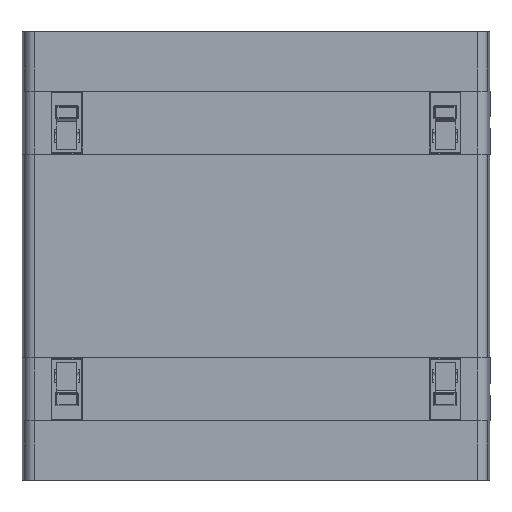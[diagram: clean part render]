
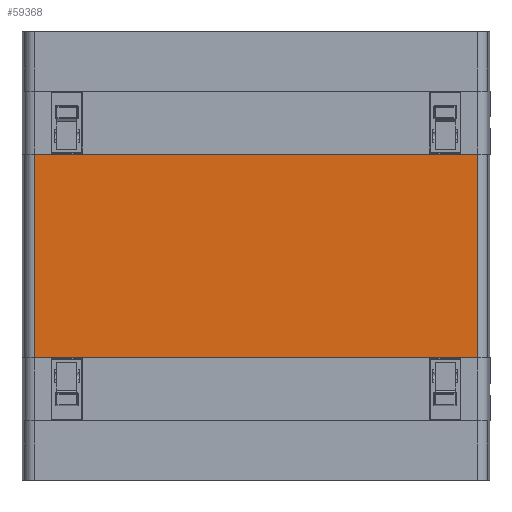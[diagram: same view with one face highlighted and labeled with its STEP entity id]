
A CAD part, front view. The second image highlights one B-rep face of the part: STEP entity #59368.
In plain terms, the highlighted planar face has unit normal (0, -1, 0).
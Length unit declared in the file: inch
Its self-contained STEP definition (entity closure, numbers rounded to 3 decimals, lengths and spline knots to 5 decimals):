
#431 = CARTESIAN_POINT ( 'NONE',  ( 4.85624, 0., -2.236 ) ) ;
#694 = VECTOR ( 'NONE', #73382, 39.37008 ) ;
#2485 = CARTESIAN_POINT ( 'NONE',  ( 4.85624, 0., 4.925 ) ) ;
#3588 = CARTESIAN_POINT ( 'NONE',  ( 4.85624, 0., 2.236 ) ) ;
#6796 = VERTEX_POINT ( 'NONE', #431 ) ;
#8813 = VECTOR ( 'NONE', #67215, 39.37008 ) ;
#9327 = DIRECTION ( 'NONE',  ( 0., 1., 0. ) ) ;
#10919 = CARTESIAN_POINT ( 'NONE',  ( -5.661, 0., 2.236 ) ) ;
#16646 = EDGE_CURVE ( 'NONE', #44701, #6796, #36851, .T. ) ;
#17185 = CARTESIAN_POINT ( 'NONE',  ( 4.85624, 0., 4.925 ) ) ;
#25041 = ORIENTED_EDGE ( 'NONE', *, *, #61247, .F. ) ;
#36851 = LINE ( 'NONE', #66564, #694 ) ;
#38539 = VERTEX_POINT ( 'NONE', #3588 ) ;
#39161 = EDGE_CURVE ( 'NONE', #78510, #38539, #39516, .T. ) ;
#39516 = LINE ( 'NONE', #10919, #53342 ) ;
#43221 = PLANE ( 'NONE',  #45877 ) ;
#44701 = VERTEX_POINT ( 'NONE', #77182 ) ;
#45267 = CARTESIAN_POINT ( 'NONE',  ( -4.85624, 0., 2.236 ) ) ;
#45877 = AXIS2_PLACEMENT_3D ( 'NONE', #2485, #9327, #56955 ) ;
#51941 = DIRECTION ( 'NONE',  ( 1., 0., 0. ) ) ;
#53342 = VECTOR ( 'NONE', #51941, 39.37008 ) ;
#56955 = DIRECTION ( 'NONE',  ( 0., 0., 1. ) ) ;
#59368 = ADVANCED_FACE ( 'NONE', ( #87884 ), #43221, .F. ) ;
#61247 = EDGE_CURVE ( 'NONE', #38539, #6796, #80192, .T. ) ;
#62128 = VECTOR ( 'NONE', #78505, 39.37008 ) ;
#63108 = EDGE_CURVE ( 'NONE', #78510, #44701, #75603, .T. ) ;
#66564 = CARTESIAN_POINT ( 'NONE',  ( -5.661, 0., -2.236 ) ) ;
#67215 = DIRECTION ( 'NONE',  ( 0., 0., -1. ) ) ;
#67939 = EDGE_LOOP ( 'NONE', ( #77417, #83583, #25041, #78848 ) ) ;
#73382 = DIRECTION ( 'NONE',  ( 1., 0., 0. ) ) ;
#75603 = LINE ( 'NONE', #87721, #8813 ) ;
#77182 = CARTESIAN_POINT ( 'NONE',  ( -4.85624, 0., -2.236 ) ) ;
#77417 = ORIENTED_EDGE ( 'NONE', *, *, #63108, .T. ) ;
#78505 = DIRECTION ( 'NONE',  ( 0., 0., -1. ) ) ;
#78510 = VERTEX_POINT ( 'NONE', #45267 ) ;
#78848 = ORIENTED_EDGE ( 'NONE', *, *, #39161, .F. ) ;
#80192 = LINE ( 'NONE', #17185, #62128 ) ;
#83583 = ORIENTED_EDGE ( 'NONE', *, *, #16646, .T. ) ;
#87721 = CARTESIAN_POINT ( 'NONE',  ( -4.85624, 0., 4.925 ) ) ;
#87884 = FACE_OUTER_BOUND ( 'NONE', #67939, .T. ) ;
